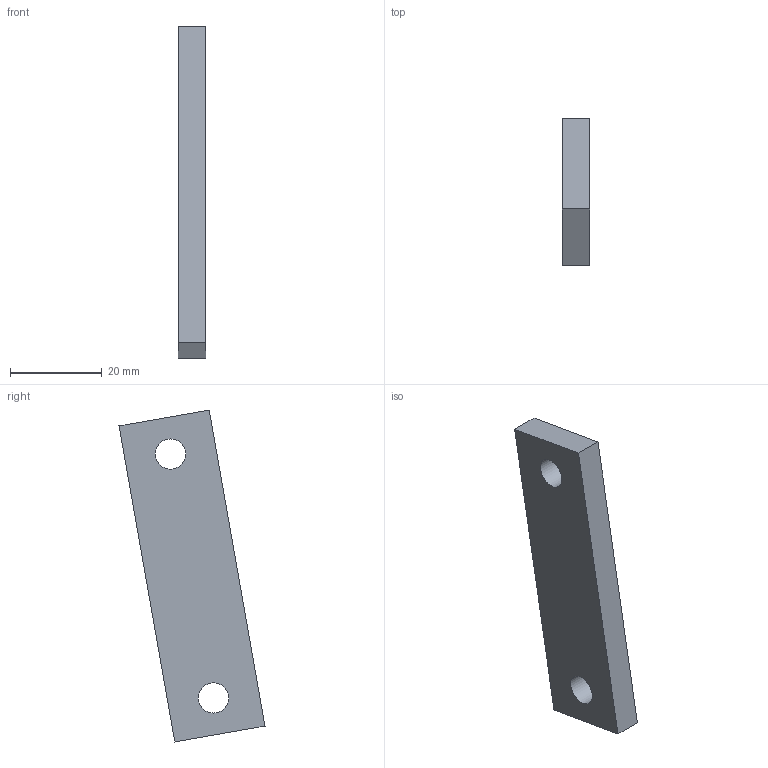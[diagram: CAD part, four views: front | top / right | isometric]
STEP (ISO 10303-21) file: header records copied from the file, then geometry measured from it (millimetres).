
FILE_DESCRIPTION(('golf model'),'2;1');
FILE_NAME('golf','',(''),(''),'golf_step_io','golf','');
FILE_SCHEMA(('AUTOMOTIVE_DESIGN { 1 0 10303 214 1 1 1 1 }'));
Length unit declared in the file: millimetre
Products named in the file (2): ASSEMBLY; y_carriage.z_spacer_bf
Assembly tree (1 placements, depth 2):
  ASSEMBLY
    y_carriage.z_spacer_bf
Bounding box: 6 x 31.85 x 72.41 mm (x, y, z)
Volume: 7989.5 mm3; surface area: 3992 mm2
Topology: 1 solids, 1 shells, 8 faces, 18 edges, 12 vertices
Faces by surface type: plane 6, cylinder 2
Full cylindrical faces by diameter (mm): 6.6 x2
Entity records: 258 total; most frequent: DIRECTION 40, CARTESIAN_POINT 38, ORIENTED_EDGE 32, EDGE_CURVE 16, AXIS2_PLACEMENT_3D 14, EDGE_LOOP 14, VERTEX_POINT 12, VECTOR 12
